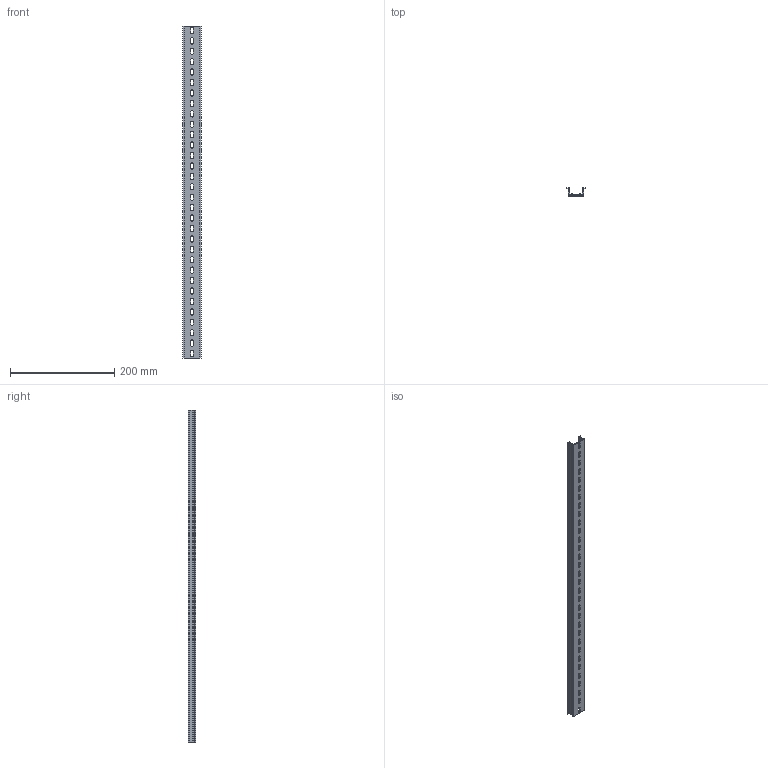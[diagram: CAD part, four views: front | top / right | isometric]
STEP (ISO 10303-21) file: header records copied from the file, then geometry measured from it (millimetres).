
FILE_DESCRIPTION(/* description */ (''),/* implementation_level */ '2;1');
FILE_NAME(/* name */ '22649-(TKB KD-32)HP 3D.stp',/* time_stamp */ '2024-12-05T14:11:17+09:00',/* author */ ('usercadg104'),/* organization */ (''),/* preprocessor_version */ 'ST-DEVELOPER v19.2',/* originating_system */ 'Autodesk Inventor 2023',/* authorisation */ '');
FILE_SCHEMA (('CONFIG_CONTROL_DESIGN'));
Length unit declared in the file: millimetre
Products named in the file (1): TKB KD-3(林)
Bounding box: 35 x 15 x 637 mm (x, y, z)
Volume: 74524.8 mm3; surface area: 86105.3 mm2
Topology: 1 solids, 1 shells, 168 faces, 498 edges, 332 vertices
Faces by surface type: plane 100, cylinder 68
Entity records: 5809 total; most frequent: CARTESIAN_POINT 999, ORIENTED_EDGE 996, DIRECTION 972, EDGE_CURVE 498, LINE 362, VECTOR 362, VERTEX_POINT 332, AXIS2_PLACEMENT_3D 305
